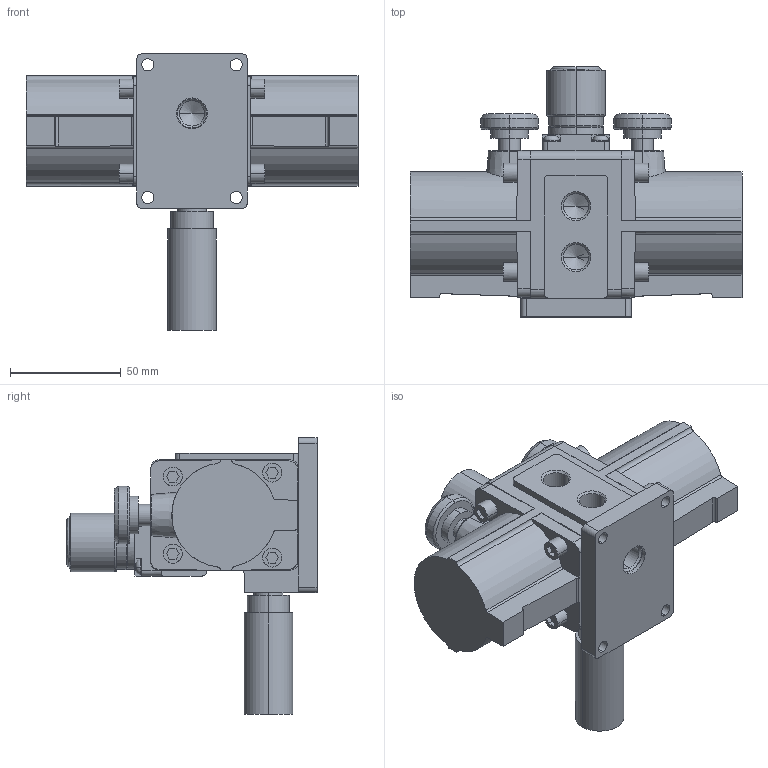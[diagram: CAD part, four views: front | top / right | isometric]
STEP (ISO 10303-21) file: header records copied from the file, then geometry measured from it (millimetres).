
FILE_DESCRIPTION (( 'STEP AP203' ), '1' );
FILE_NAME ('QC06014.STEP', '2016-10-18T11:32:03', ( '' ), ( '' ), 'SwSTEP 2.0', 'SolidWorks 2016', '' );
FILE_SCHEMA (( 'CONFIG_CONTROL_DESIGN' ));
Length unit declared in the file: millimetre
Products named in the file (1): QC06014
Bounding box: 150 x 113 x 125 mm (x, y, z)
Volume: 453674 mm3; surface area: 57697.4 mm2
Topology: 4 solids, 4 shells, 353 faces, 900 edges, 578 vertices
Faces by surface type: plane 171, cylinder 128, cone 32, bspline 14, torus 8
Entity records: 11705 total; most frequent: CARTESIAN_POINT 3184, ORIENTED_EDGE 1776, DIRECTION 1752, EDGE_CURVE 888, AXIS2_PLACEMENT_3D 610, VERTEX_POINT 578, VECTOR 532, LINE 532
